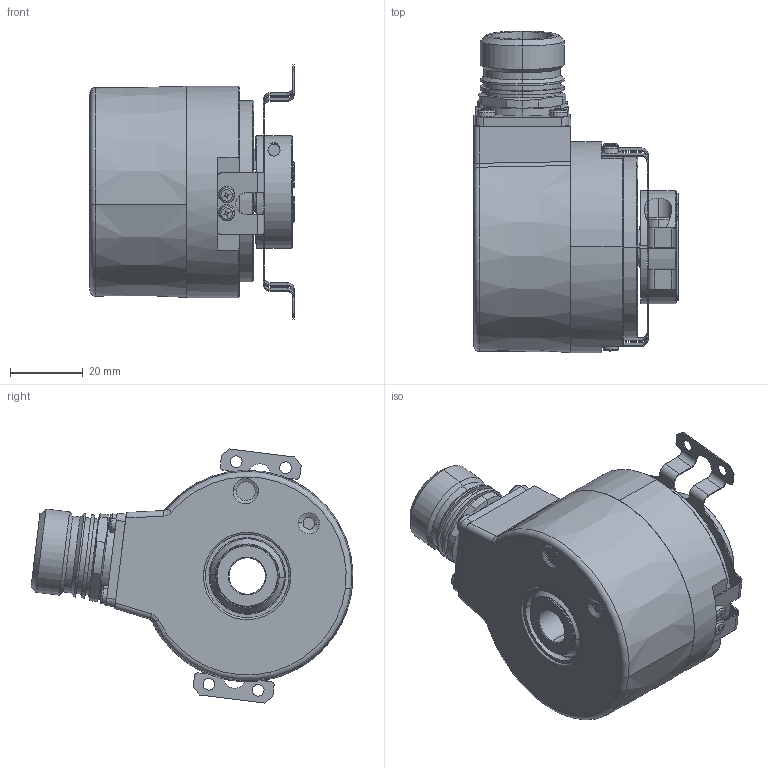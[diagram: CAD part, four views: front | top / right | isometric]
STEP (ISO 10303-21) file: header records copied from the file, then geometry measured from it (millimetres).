
FILE_DESCRIPTION (( 'STEP AP214' ), '1' );
FILE_NAME ('5834SIL.B3X4.XXXX.STEP', '2010-11-18T12:56:34', ( 'admin' ), ( 'Fritz Kübler GmbH' ), 'SwSTEP 2.0', 'SolidWorks 2009', '' );
FILE_SCHEMA (( 'AUTOMOTIVE_DESIGN' ));
Length unit declared in the file: millimetre
Products named in the file (1): 5834SIL.B3X4.XXXX
Bounding box: 56 x 88.28 x 69.69 mm (x, y, z)
Surface area: 29388.7 mm2 (no closed solid volume)
Topology: 0 solids, 39 shells, 583 faces, 1623 edges, 1045 vertices
Faces by surface type: plane 236, cylinder 219, cone 62, sphere 32, torus 26, bspline 8
Entity records: 26355 total; most frequent: CARTESIAN_POINT 4770, DIRECTION 3418, ORIENTED_EDGE 2855, EDGE_CURVE 1599, AXIS2_PLACEMENT_3D 1323, VERTEX_POINT 1045, VECTOR 772, LINE 772
